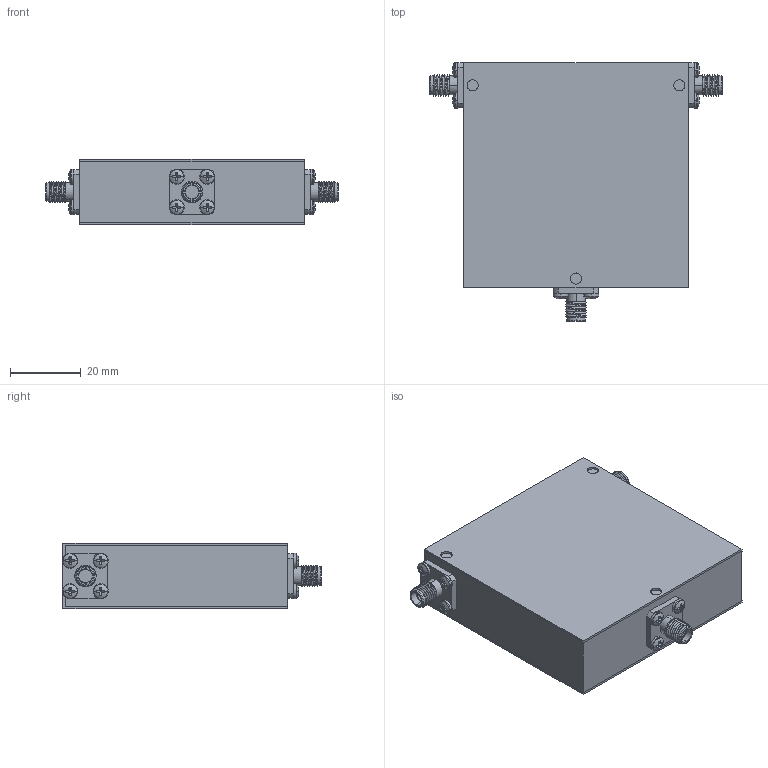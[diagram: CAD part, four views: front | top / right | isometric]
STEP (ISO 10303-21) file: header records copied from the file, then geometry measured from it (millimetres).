
FILE_DESCRIPTION (( 'STEP AP214' ), '1' );
FILE_NAME ('D3C0405 2.5x2.5x0.73 FFF.step', '2021-12-01T20:55:05', ( '' ), ( '' ), 'SwSTEP 2.0', 'SolidWorks 2016', '' );
FILE_SCHEMA (( 'AUTOMOTIVE_DESIGN' ));
Length unit declared in the file: inch
Products named in the file (5): Delta SMA-Female 0.500 flange Threaded; D3I0405 2.5x2.5x0.73; D3C0405 2.5x2.5x0.73 FFF; D3I0405 2.5x2.475x0.68; pan cross head_ai_CR-PHMS 0.086-56x0.125x0.125-N
Assembly tree (17 placements, depth 2):
  D3C0405 2.5x2.5x0.73 FFF
    D3I0405 2.5x2.475x0.68
    D3I0405 2.5x2.5x0.73
    pan cross head_ai_CR-PHMS 0.086-56x0.125x0.125-N  x12
    Delta SMA-Female 0.500 flange Threaded  x3
Bounding box: 82.55 x 73.11 x 18.54 mm (x, y, z)
Volume: 75944.3 mm3; surface area: 33746.7 mm2
Topology: 17 solids, 17 shells, 421 faces, 957 edges, 591 vertices
Faces by surface type: plane 232, cylinder 126, torus 30, sphere 24, bspline 9
Entity records: 3729 total; most frequent: CARTESIAN_POINT 1205, DIRECTION 527, ORIENTED_EDGE 434, EDGE_CURVE 217, AXIS2_PLACEMENT_3D 211, VERTEX_POINT 139, EDGE_LOOP 116, VECTOR 105
